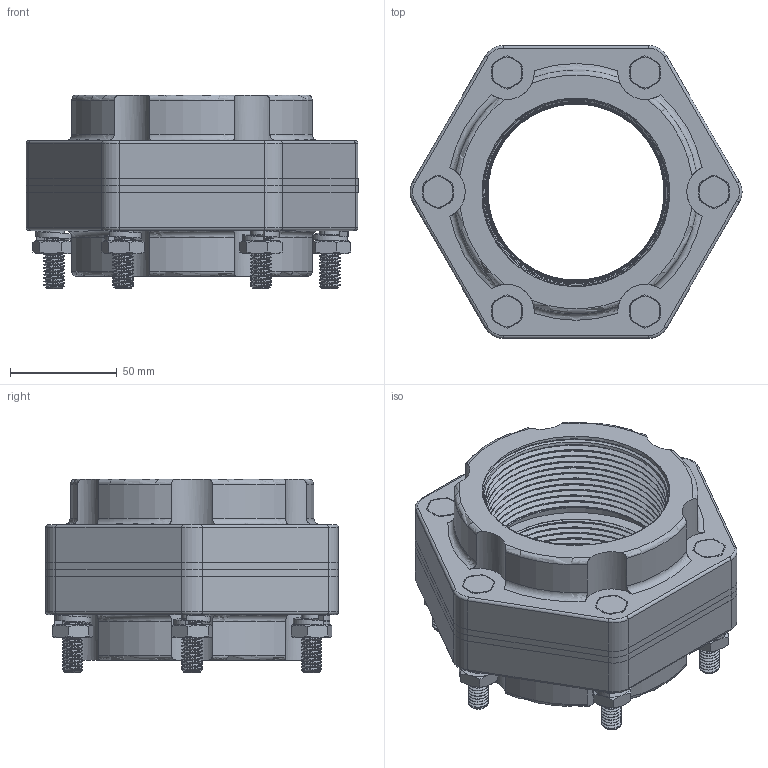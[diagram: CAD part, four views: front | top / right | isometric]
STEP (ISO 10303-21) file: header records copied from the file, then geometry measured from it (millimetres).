
FILE_DESCRIPTION(/* description */ ('Alibre Inc.'),/* implementation_level */ '2;1');
FILE_NAME(/* name */ 'export0',/* time_stamp */ '2017-09-11T10:44:56-04:00',/* author */ (''),/* organization */ (''),/* preprocessor_version */ 'ST-DEVELOPER v14',/* originating_system */ 'Alibre',/* authorisation */ '');
FILE_SCHEMA (('CONFIG_CONTROL_DESIGN'));
Products named in the file (7): ID_1; ID_2; ID_3; ID_4
Bounding box: 155.69 x 137.42 x 90.79 mm (x, y, z)
Volume: 629341.6 mm3; surface area: 182812.3 mm2
Topology: 22 solids, 22 shells, 890 faces, 2314 edges, 1482 vertices
Faces by surface type: cylinder 362, cone 260, plane 190, bspline 42, torus 36
Full cylindrical faces by diameter (mm): 7.62 x12, 10.414 x12, 93.726 x2
Entity records: 99662 total; most frequent: CARTESIAN_POINT 90565, ORIENTED_EDGE 1854, DIRECTION 1365, EDGE_CURVE 927, VERTEX_POINT 613, AXIS2_PLACEMENT_3D 558, EDGE_LOOP 426, FACE_BOUND 426
